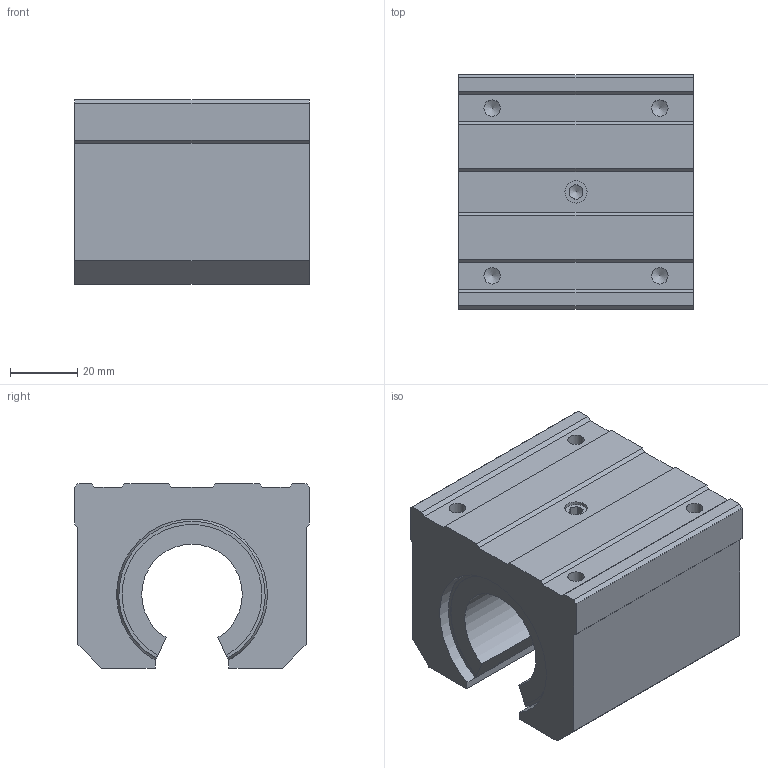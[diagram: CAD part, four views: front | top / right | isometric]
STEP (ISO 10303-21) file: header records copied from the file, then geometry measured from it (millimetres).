
FILE_DESCRIPTION((''),'2;1');
FILE_NAME('D:\製品 (図面)\カタログ用3D\GH30H.stp','2010-06-07T16:09:55',('Tsuchiya'),(''),'Autodesk Inventor 10','Autodesk Inventor 10','');
FILE_SCHEMA(('AUTOMOTIVE_DESIGN { 1 0 10303 214 1 1 1 1 }'));
Length unit declared in the file: millimetre
Products named in the file (1): GH30H
Bounding box: 70 x 70 x 55 mm (x, y, z)
Volume: 191306.1 mm3; surface area: 30778.2 mm2
Topology: 1 solids, 1 shells, 73 faces, 207 edges, 133 vertices
Faces by surface type: plane 45, cylinder 17, bspline 6, cone 3, torus 2
Full cylindrical faces by diameter (mm): 4.917 x2
Entity records: 2354 total; most frequent: CARTESIAN_POINT 532, ORIENTED_EDGE 380, DIRECTION 358, EDGE_CURVE 190, VECTOR 138, LINE 138, VERTEX_POINT 126, AXIS2_PLACEMENT_3D 110
